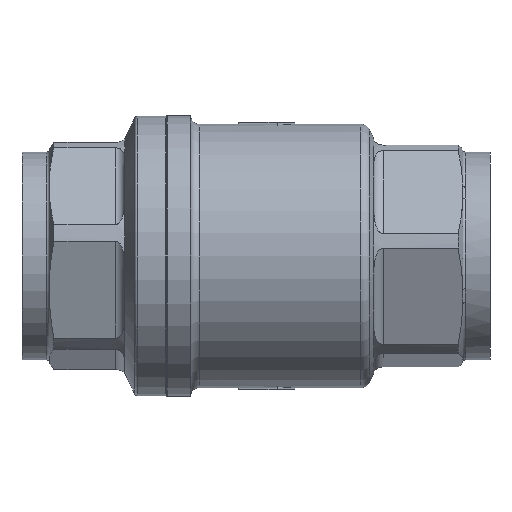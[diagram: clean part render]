
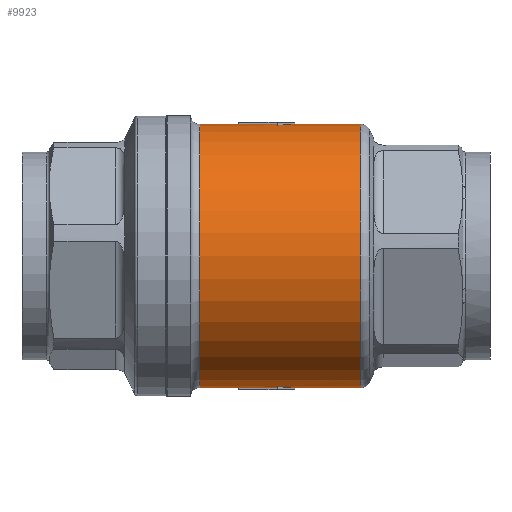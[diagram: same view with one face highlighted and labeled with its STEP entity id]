
A CAD part, front view. The second image highlights one B-rep face of the part: STEP entity #9923.
In plain terms, the highlighted cylindrical face has radius 25.045 mm (diameter 50.09 mm), a partial arc.
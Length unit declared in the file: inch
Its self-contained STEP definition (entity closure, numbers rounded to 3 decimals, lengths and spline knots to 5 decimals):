
#14 = VERTEX_POINT ( 'NONE', #10139 ) ;
#55 = VERTEX_POINT ( 'NONE', #3699 ) ;
#68 = CARTESIAN_POINT ( 'NONE',  ( -0.13204, 0., 0.98603 ) ) ;
#184 = VERTEX_POINT ( 'NONE', #4191 ) ;
#424 = DIRECTION ( 'NONE',  ( 0., 0., -1. ) ) ;
#470 = DIRECTION ( 'NONE',  ( -1., 0., 0. ) ) ;
#486 = ORIENTED_EDGE ( 'NONE', *, *, #6596, .F. ) ;
#539 = ORIENTED_EDGE ( 'NONE', *, *, #8651, .F. ) ;
#559 = ORIENTED_EDGE ( 'NONE', *, *, #5538, .F. ) ;
#830 = EDGE_CURVE ( 'NONE', #10543, #55, #6928, .T. ) ;
#984 = VERTEX_POINT ( 'NONE', #8133 ) ;
#1078 = EDGE_CURVE ( 'NONE', #7248, #4935, #3491, .T. ) ;
#1099 = VECTOR ( 'NONE', #4449, 39.37008 ) ;
#1131 = ORIENTED_EDGE ( 'NONE', *, *, #7387, .F. ) ;
#1156 = ORIENTED_EDGE ( 'NONE', *, *, #6804, .T. ) ;
#1162 = CARTESIAN_POINT ( 'NONE',  ( -0.42064, 0., 0.98603 ) ) ;
#1217 = DIRECTION ( 'NONE',  ( 0., 0., 1. ) ) ;
#1350 = ORIENTED_EDGE ( 'NONE', *, *, #10413, .T. ) ;
#1420 = AXIS2_PLACEMENT_3D ( 'NONE', #5603, #8853, #4814 ) ;
#1778 = AXIS2_PLACEMENT_3D ( 'NONE', #5370, #470, #5568 ) ;
#1786 = ORIENTED_EDGE ( 'NONE', *, *, #6955, .T. ) ;
#1855 = CARTESIAN_POINT ( 'NONE',  ( 0.28808, 0., 0.98603 ) ) ;
#1859 = CIRCLE ( 'NONE', #9018, 0.98603 ) ;
#2007 = CARTESIAN_POINT ( 'NONE',  ( 0.15845, -0.13324, -0.97698 ) ) ;
#2056 = CARTESIAN_POINT ( 'NONE',  ( 0.2447, -0.04458, -0.98603 ) ) ;
#2134 = CIRCLE ( 'NONE', #5713, 0.98603 ) ;
#2275 = EDGE_CURVE ( 'NONE', #55, #984, #7279, .T. ) ;
#2320 = CARTESIAN_POINT ( 'NONE',  ( -2.21004, 0., 0.98603 ) ) ;
#2445 = EDGE_CURVE ( 'NONE', #4935, #6665, #4502, .T. ) ;
#2459 = CIRCLE ( 'NONE', #1420, 0.98603 ) ;
#2636 = DIRECTION ( 'NONE',  ( -1., 0., 0. ) ) ;
#2692 = CARTESIAN_POINT ( 'NONE',  ( -2.21004, -0.05642, 0.98441 ) ) ;
#2728 = VECTOR ( 'NONE', #2636, 39.37008 ) ;
#2810 = CARTESIAN_POINT ( 'NONE',  ( 0.20143, -0.08906, -0.98301 ) ) ;
#2939 = ORIENTED_EDGE ( 'NONE', *, *, #8602, .T. ) ;
#2948 = CARTESIAN_POINT ( 'NONE',  ( -0.13204, -0.05642, 0.98441 ) ) ;
#3226 = DIRECTION ( 'NONE',  ( -1., 0., 0. ) ) ;
#3339 = ORIENTED_EDGE ( 'NONE', *, *, #830, .T. ) ;
#3363 = DIRECTION ( 'NONE',  ( 0., 0., 1. ) ) ;
#3491 = LINE ( 'NONE', #2692, #2728 ) ;
#3588 = DIRECTION ( 'NONE',  ( -1., 0., 0. ) ) ;
#3672 = ORIENTED_EDGE ( 'NONE', *, *, #1078, .T. ) ;
#3699 = CARTESIAN_POINT ( 'NONE',  ( 0.28808, 0., 0.98603 ) ) ;
#3725 = VECTOR ( 'NONE', #6508, 39.37008 ) ;
#3751 = CARTESIAN_POINT ( 'NONE',  ( -2.21004, 0., -0.98603 ) ) ;
#4012 = DIRECTION ( 'NONE',  ( 1., 0., 0. ) ) ;
#4090 = AXIS2_PLACEMENT_3D ( 'NONE', #6887, #9178, #7574 ) ;
#4191 = CARTESIAN_POINT ( 'NONE',  ( -0.13204, 0., -0.98603 ) ) ;
#4322 = CARTESIAN_POINT ( 'NONE',  ( 0.15845, -0.13324, 0.97698 ) ) ;
#4344 = VERTEX_POINT ( 'NONE', #9422 ) ;
#4449 = DIRECTION ( 'NONE',  ( -1., 0., 0. ) ) ;
#4497 = DIRECTION ( 'NONE',  ( 0., 0., -1. ) ) ;
#4502 = CIRCLE ( 'NONE', #10438, 0.98603 ) ;
#4523 = CARTESIAN_POINT ( 'NONE',  ( -0.42064, 0., -0.98603 ) ) ;
#4525 = CIRCLE ( 'NONE', #4691, 0.98603 ) ;
#4558 = VERTEX_POINT ( 'NONE', #7981 ) ;
#4691 = AXIS2_PLACEMENT_3D ( 'NONE', #5288, #8523, #1217 ) ;
#4800 = CARTESIAN_POINT ( 'NONE',  ( -2.21004, 0., -0.98603 ) ) ;
#4814 = DIRECTION ( 'NONE',  ( 0., 0., 1. ) ) ;
#4935 = VERTEX_POINT ( 'NONE', #2948 ) ;
#4965 = ORIENTED_EDGE ( 'NONE', *, *, #8989, .F. ) ;
#5124 = CARTESIAN_POINT ( 'NONE',  ( 0.2447, -0.04458, 0.98603 ) ) ;
#5179 = ORIENTED_EDGE ( 'NONE', *, *, #6243, .F. ) ;
#5184 = LINE ( 'NONE', #7735, #10542 ) ;
#5276 = VECTOR ( 'NONE', #8594, 39.37008 ) ;
#5288 = CARTESIAN_POINT ( 'NONE',  ( -0.42064, 0., 0. ) ) ;
#5326 = DIRECTION ( 'NONE',  ( -1., 0., 0. ) ) ;
#5370 = CARTESIAN_POINT ( 'NONE',  ( -2.21004, 0., 0. ) ) ;
#5393 = VERTEX_POINT ( 'NONE', #10187 ) ;
#5407 = ORIENTED_EDGE ( 'NONE', *, *, #2275, .T. ) ;
#5538 = EDGE_CURVE ( 'NONE', #184, #9936, #7241, .T. ) ;
#5568 = DIRECTION ( 'NONE',  ( 0., 0., 1. ) ) ;
#5603 = CARTESIAN_POINT ( 'NONE',  ( 0.15845, 0., 0. ) ) ;
#5713 = AXIS2_PLACEMENT_3D ( 'NONE', #6631, #3588, #4497 ) ;
#5930 = LINE ( 'NONE', #3751, #1099 ) ;
#6070 = ORIENTED_EDGE ( 'NONE', *, *, #2445, .T. ) ;
#6084 = EDGE_LOOP ( 'NONE', ( #539, #1786, #3339, #5407, #2939, #3672, #6070, #1156, #1350, #559, #486, #5179, #4965, #1131 ) ) ;
#6113 = CARTESIAN_POINT ( 'NONE',  ( 0.28808, 0., -0.98603 ) ) ;
#6243 = EDGE_CURVE ( 'NONE', #6897, #5393, #6742, .T. ) ;
#6284 = CARTESIAN_POINT ( 'NONE',  ( 0.78518, 0., 0.98603 ) ) ;
#6508 = DIRECTION ( 'NONE',  ( -1., 0., 0. ) ) ;
#6596 = EDGE_CURVE ( 'NONE', #5393, #184, #1859, .T. ) ;
#6631 = CARTESIAN_POINT ( 'NONE',  ( 0.15845, 0., 0. ) ) ;
#6665 = VERTEX_POINT ( 'NONE', #68 ) ;
#6742 = LINE ( 'NONE', #9240, #5276 ) ;
#6782 = DIRECTION ( 'NONE',  ( -1., 0., 0. ) ) ;
#6804 = EDGE_CURVE ( 'NONE', #6665, #10339, #5184, .T. ) ;
#6872 = CARTESIAN_POINT ( 'NONE',  ( -0.13204, 0., 0. ) ) ;
#6887 = CARTESIAN_POINT ( 'NONE',  ( 0.78518, 0., 0. ) ) ;
#6897 = VERTEX_POINT ( 'NONE', #8368 ) ;
#6928 = LINE ( 'NONE', #2320, #9177 ) ;
#6955 = EDGE_CURVE ( 'NONE', #4344, #10543, #8677, .T. ) ;
#7241 = LINE ( 'NONE', #4800, #3725 ) ;
#7248 = VERTEX_POINT ( 'NONE', #10001 ) ;
#7279 =( BOUNDED_CURVE ( )  B_SPLINE_CURVE ( 3, ( #1855, #5124, #8355, #4322 ),
 .UNSPECIFIED., .F., .T. ) 
 B_SPLINE_CURVE_WITH_KNOTS ( ( 4, 4 ),
 ( 4.71239, 4.84793 ),
 .UNSPECIFIED. ) 
 CURVE ( )  GEOMETRIC_REPRESENTATION_ITEM ( )  RATIONAL_B_SPLINE_CURVE ( ( 1., 0.998, 0.998, 1. ) ) 
 REPRESENTATION_ITEM ( '' )  );
#7387 = EDGE_CURVE ( 'NONE', #14, #4558, #10079, .T. ) ;
#7574 = DIRECTION ( 'NONE',  ( 0., 0., -1. ) ) ;
#7735 = CARTESIAN_POINT ( 'NONE',  ( -2.21004, 0., 0.98603 ) ) ;
#7766 = FACE_OUTER_BOUND ( 'NONE', #6084, .T. ) ;
#7981 = CARTESIAN_POINT ( 'NONE',  ( 0.15845, -0.13324, -0.97698 ) ) ;
#8133 = CARTESIAN_POINT ( 'NONE',  ( 0.15845, -0.13324, 0.97698 ) ) ;
#8355 = CARTESIAN_POINT ( 'NONE',  ( 0.20143, -0.08906, 0.98301 ) ) ;
#8368 = CARTESIAN_POINT ( 'NONE',  ( 0.15845, -0.05642, -0.98441 ) ) ;
#8523 = DIRECTION ( 'NONE',  ( 1., 0., 0. ) ) ;
#8594 = DIRECTION ( 'NONE',  ( -1., 0., 0. ) ) ;
#8602 = EDGE_CURVE ( 'NONE', #984, #7248, #2134, .T. ) ;
#8651 = EDGE_CURVE ( 'NONE', #4344, #14, #5930, .T. ) ;
#8677 = CIRCLE ( 'NONE', #4090, 0.98603 ) ;
#8853 = DIRECTION ( 'NONE',  ( 1., 0., 0. ) ) ;
#8913 = CARTESIAN_POINT ( 'NONE',  ( -0.13204, 0., 0. ) ) ;
#8989 = EDGE_CURVE ( 'NONE', #4558, #6897, #2459, .T. ) ;
#9018 = AXIS2_PLACEMENT_3D ( 'NONE', #8913, #4012, #3363 ) ;
#9177 = VECTOR ( 'NONE', #3226, 39.37008 ) ;
#9178 = DIRECTION ( 'NONE',  ( -1., 0., 0. ) ) ;
#9240 = CARTESIAN_POINT ( 'NONE',  ( -2.21004, -0.05642, -0.98441 ) ) ;
#9422 = CARTESIAN_POINT ( 'NONE',  ( 0.78518, 0., -0.98603 ) ) ;
#9659 = CYLINDRICAL_SURFACE ( 'NONE', #1778, 0.98603 ) ;
#9923 = ADVANCED_FACE ( 'NONE', ( #7766 ), #9659, .T. ) ;
#9936 = VERTEX_POINT ( 'NONE', #4523 ) ;
#10001 = CARTESIAN_POINT ( 'NONE',  ( 0.15845, -0.05642, 0.98441 ) ) ;
#10079 =( BOUNDED_CURVE ( )  B_SPLINE_CURVE ( 3, ( #6113, #2056, #2810, #2007 ),
 .UNSPECIFIED., .F., .T. ) 
 B_SPLINE_CURVE_WITH_KNOTS ( ( 4, 4 ),
 ( 4.71239, 4.84793 ),
 .UNSPECIFIED. ) 
 CURVE ( )  GEOMETRIC_REPRESENTATION_ITEM ( )  RATIONAL_B_SPLINE_CURVE ( ( 1., 0.998, 0.998, 1. ) ) 
 REPRESENTATION_ITEM ( '' )  );
#10139 = CARTESIAN_POINT ( 'NONE',  ( 0.28808, 0., -0.98603 ) ) ;
#10187 = CARTESIAN_POINT ( 'NONE',  ( -0.13204, -0.05642, -0.98441 ) ) ;
#10339 = VERTEX_POINT ( 'NONE', #1162 ) ;
#10413 = EDGE_CURVE ( 'NONE', #10339, #9936, #4525, .T. ) ;
#10438 = AXIS2_PLACEMENT_3D ( 'NONE', #6872, #5326, #424 ) ;
#10542 = VECTOR ( 'NONE', #6782, 39.37008 ) ;
#10543 = VERTEX_POINT ( 'NONE', #6284 ) ;
